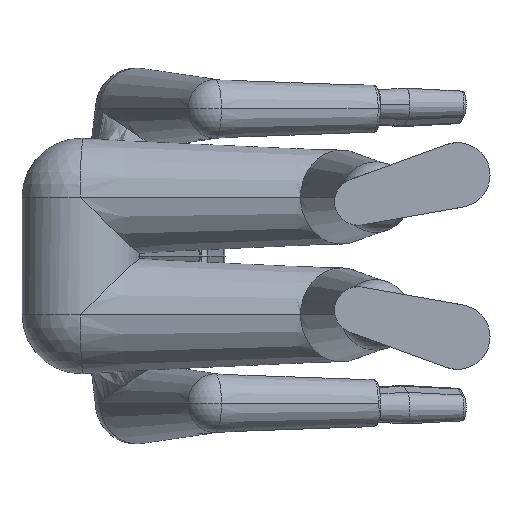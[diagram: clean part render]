
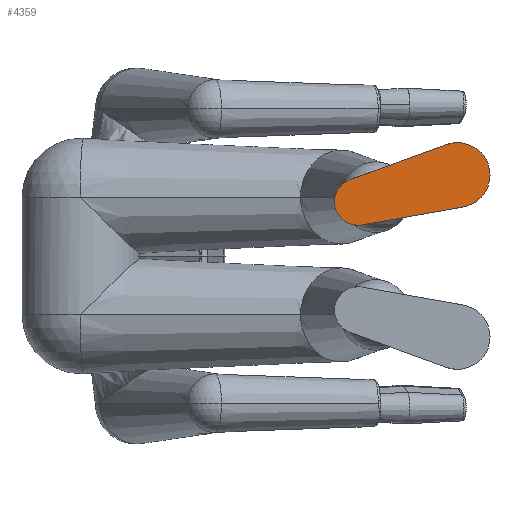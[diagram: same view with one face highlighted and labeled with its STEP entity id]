
A CAD part, front view. The second image highlights one B-rep face of the part: STEP entity #4359.
In plain terms, the highlighted planar face has unit normal (0, -1, 0).
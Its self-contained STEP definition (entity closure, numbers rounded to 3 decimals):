
#2475 = CARTESIAN_POINT ( 'NONE',  ( 457.396, 0., 129.843 ) ) ;
#2476 = DIRECTION ( 'NONE',  ( 0., 0., 1. ) ) ;
#2477 = DIRECTION ( 'NONE',  ( 0., 1., 0. ) ) ;
#2478 = CARTESIAN_POINT ( 'NONE',  ( 471.022, 0., 92.235 ) ) ;
#2479 = AXIS2_PLACEMENT_3D ( 'NONE', #2478, #2477, #2476 ) ;
#2480 = CIRCLE ( 'NONE', #2479, 40. ) ;
#2481 = CARTESIAN_POINT ( 'NONE',  ( 471.022, 0., 52.235 ) ) ;
#4358 = EDGE_CURVE ( 'NONE', #4385, #4379, #7458, .T. ) ;
#4359 = ADVANCED_FACE ( 'NONE', ( #7453 ), #7438, .F. ) ;
#4360 = EDGE_LOOP ( 'NONE', ( #4361, #4364, #4366, #4367, #4370 ) ) ;
#4361 = ORIENTED_EDGE ( 'NONE', *, *, #4362, .F. ) ;
#4362 = EDGE_CURVE ( 'NONE', #4363, #5265, #7498, .T. ) ;
#4363 = VERTEX_POINT ( 'NONE', #7493 ) ;
#4364 = ORIENTED_EDGE ( 'NONE', *, *, #4365, .F. ) ;
#4365 = EDGE_CURVE ( 'NONE', #4379, #4363, #7492, .T. ) ;
#4366 = ORIENTED_EDGE ( 'NONE', *, *, #4358, .F. ) ;
#4367 = ORIENTED_EDGE ( 'NONE', *, *, #4369, .F. ) ;
#4369 = EDGE_CURVE ( 'NONE', #5270, #4385, #7483, .T. ) ;
#4370 = ORIENTED_EDGE ( 'NONE', *, *, #5268, .F. ) ;
#4379 = VERTEX_POINT ( 'NONE', #7505 ) ;
#4385 = VERTEX_POINT ( 'NONE', #7546 ) ;
#5265 = VERTEX_POINT ( 'NONE', #2481 ) ;
#5268 = EDGE_CURVE ( 'NONE', #5265, #5270, #2480, .T. ) ;
#5270 = VERTEX_POINT ( 'NONE', #2475 ) ;
#7434 = DIRECTION ( 'NONE',  ( 0., 0., 1. ) ) ;
#7435 = DIRECTION ( 'NONE',  ( 0., 1., 0. ) ) ;
#7436 = CARTESIAN_POINT ( 'NONE',  ( 471.022, 0., 92.235 ) ) ;
#7437 = AXIS2_PLACEMENT_3D ( 'NONE', #7436, #7435, #7434 ) ;
#7438 = PLANE ( 'NONE',  #7437 ) ;
#7453 = FACE_OUTER_BOUND ( 'NONE', #4360, .T. ) ;
#7454 = DIRECTION ( 'NONE',  ( 0., 0., -1. ) ) ;
#7455 = DIRECTION ( 'NONE',  ( 0., 1., 0. ) ) ;
#7456 = CARTESIAN_POINT ( 'NONE',  ( 640.059, 0., 137.529 ) ) ;
#7457 = AXIS2_PLACEMENT_3D ( 'NONE', #7456, #7455, #7454 ) ;
#7458 = CIRCLE ( 'NONE', #7457, 55. ) ;
#7480 = DIRECTION ( 'NONE',  ( 0.94, 0., 0.341 ) ) ;
#7481 = VECTOR ( 'NONE', #7480, 1000. ) ;
#7482 = CARTESIAN_POINT ( 'NONE',  ( 621.323, 0., 189.239 ) ) ;
#7483 = LINE ( 'NONE', #7482, #7481 ) ;
#7489 = DIRECTION ( 'NONE',  ( -0.985, 0., -0.175 ) ) ;
#7490 = VECTOR ( 'NONE', #7489, 1000. ) ;
#7491 = CARTESIAN_POINT ( 'NONE',  ( 478.025, 0., 52.853 ) ) ;
#7492 = LINE ( 'NONE', #7491, #7490 ) ;
#7493 = CARTESIAN_POINT ( 'NONE',  ( 478.025, 0., 52.853 ) ) ;
#7494 = DIRECTION ( 'NONE',  ( 0., 0., 1. ) ) ;
#7495 = DIRECTION ( 'NONE',  ( 0., 1., 0. ) ) ;
#7496 = CARTESIAN_POINT ( 'NONE',  ( 471.022, 0., 92.235 ) ) ;
#7497 = AXIS2_PLACEMENT_3D ( 'NONE', #7496, #7495, #7494 ) ;
#7498 = CIRCLE ( 'NONE', #7497, 40. ) ;
#7505 = CARTESIAN_POINT ( 'NONE',  ( 649.688, 0., 83.378 ) ) ;
#7546 = CARTESIAN_POINT ( 'NONE',  ( 621.323, 0., 189.239 ) ) ;
